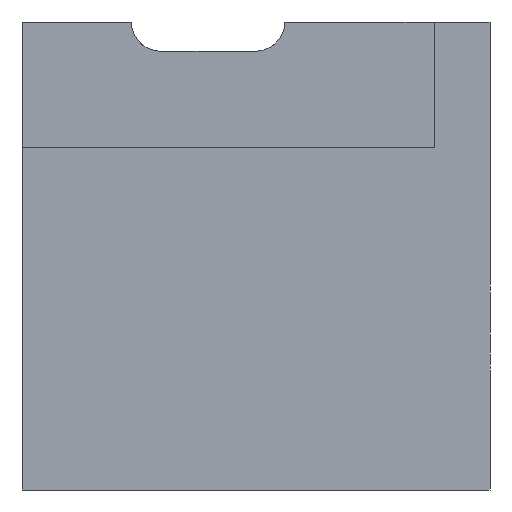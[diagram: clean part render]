
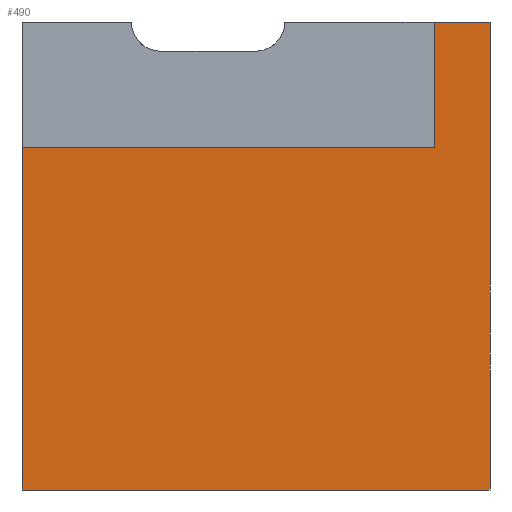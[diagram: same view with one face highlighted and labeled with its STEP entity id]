
A CAD part, front view. The second image highlights one B-rep face of the part: STEP entity #490.
In plain terms, the highlighted planar face has unit normal (0, -1, 0).
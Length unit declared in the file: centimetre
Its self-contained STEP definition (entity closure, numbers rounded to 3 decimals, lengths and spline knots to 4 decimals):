
#25 = ORIENTED_EDGE ( 'NONE', *, *, #894, .F. ) ;
#29 = EDGE_CURVE ( 'NONE', #217, #975, #916, .T. ) ;
#39 = EDGE_CURVE ( 'NONE', #217, #605, #446, .T. ) ;
#62 = DIRECTION ( 'NONE',  ( 0., 0., 1. ) ) ;
#92 = DIRECTION ( 'NONE',  ( 0., 0., 1. ) ) ;
#105 = DIRECTION ( 'NONE',  ( 0., 0., -1. ) ) ;
#115 = DIRECTION ( 'NONE',  ( -1., 0., 0. ) ) ;
#172 = DIRECTION ( 'NONE',  ( 0., 0., -1. ) ) ;
#204 = DIRECTION ( 'NONE',  ( 1., 0., 0. ) ) ;
#211 = ORIENTED_EDGE ( 'NONE', *, *, #386, .F. ) ;
#217 = VERTEX_POINT ( 'NONE', #942 ) ;
#257 = FACE_OUTER_BOUND ( 'NONE', #412, .T. ) ;
#270 = CARTESIAN_POINT ( 'NONE',  ( 0., 0., 0. ) ) ;
#273 = ORIENTED_EDGE ( 'NONE', *, *, #39, .F. ) ;
#275 = CARTESIAN_POINT ( 'NONE',  ( 0., 0., 1000. ) ) ;
#289 = CARTESIAN_POINT ( 'NONE',  ( 1000., 0., 1000. ) ) ;
#360 = CARTESIAN_POINT ( 'NONE',  ( 1000., 0., 0. ) ) ;
#386 = EDGE_CURVE ( 'NONE', #599, #846, #727, .T. ) ;
#412 = EDGE_LOOP ( 'NONE', ( #273, #652, #903, #671, #211, #25 ) ) ;
#419 = DIRECTION ( 'NONE',  ( 1., 0., 0. ) ) ;
#421 = VECTOR ( 'NONE', #204, 100. ) ;
#438 = VERTEX_POINT ( 'NONE', #514 ) ;
#446 = LINE ( 'NONE', #857, #518 ) ;
#462 = EDGE_CURVE ( 'NONE', #975, #438, #585, .T. ) ;
#490 = ADVANCED_FACE ( 'NONE', ( #257 ), #677, .F. ) ;
#498 = EDGE_CURVE ( 'NONE', #438, #846, #981, .T. ) ;
#513 = CARTESIAN_POINT ( 'NONE',  ( 0., 0., 1000. ) ) ;
#514 = CARTESIAN_POINT ( 'NONE',  ( 0., 0., 0. ) ) ;
#518 = VECTOR ( 'NONE', #62, 100. ) ;
#573 = CARTESIAN_POINT ( 'NONE',  ( 1000., 0., 1000. ) ) ;
#582 = VECTOR ( 'NONE', #115, 100. ) ;
#585 = LINE ( 'NONE', #924, #989 ) ;
#590 = AXIS2_PLACEMENT_3D ( 'NONE', #275, #907, #92 ) ;
#599 = VERTEX_POINT ( 'NONE', #289 ) ;
#605 = VERTEX_POINT ( 'NONE', #930 ) ;
#620 = CARTESIAN_POINT ( 'NONE',  ( 0., 0., 732.3956 ) ) ;
#652 = ORIENTED_EDGE ( 'NONE', *, *, #29, .T. ) ;
#671 = ORIENTED_EDGE ( 'NONE', *, *, #498, .T. ) ;
#677 = PLANE ( 'NONE',  #590 ) ;
#689 = VECTOR ( 'NONE', #419, 100. ) ;
#727 = LINE ( 'NONE', #573, #793 ) ;
#793 = VECTOR ( 'NONE', #172, 100. ) ;
#837 = CARTESIAN_POINT ( 'NONE',  ( 880.4332, 0., 732.3956 ) ) ;
#844 = LINE ( 'NONE', #513, #421 ) ;
#846 = VERTEX_POINT ( 'NONE', #360 ) ;
#857 = CARTESIAN_POINT ( 'NONE',  ( 880.4332, 0., 732.3956 ) ) ;
#894 = EDGE_CURVE ( 'NONE', #605, #599, #844, .T. ) ;
#903 = ORIENTED_EDGE ( 'NONE', *, *, #462, .T. ) ;
#907 = DIRECTION ( 'NONE',  ( 0., 1., 0. ) ) ;
#916 = LINE ( 'NONE', #837, #582 ) ;
#924 = CARTESIAN_POINT ( 'NONE',  ( 0., 0., 1000. ) ) ;
#930 = CARTESIAN_POINT ( 'NONE',  ( 880.4332, 0., 1000. ) ) ;
#942 = CARTESIAN_POINT ( 'NONE',  ( 880.4332, 0., 732.3956 ) ) ;
#975 = VERTEX_POINT ( 'NONE', #620 ) ;
#981 = LINE ( 'NONE', #270, #689 ) ;
#989 = VECTOR ( 'NONE', #105, 100. ) ;
